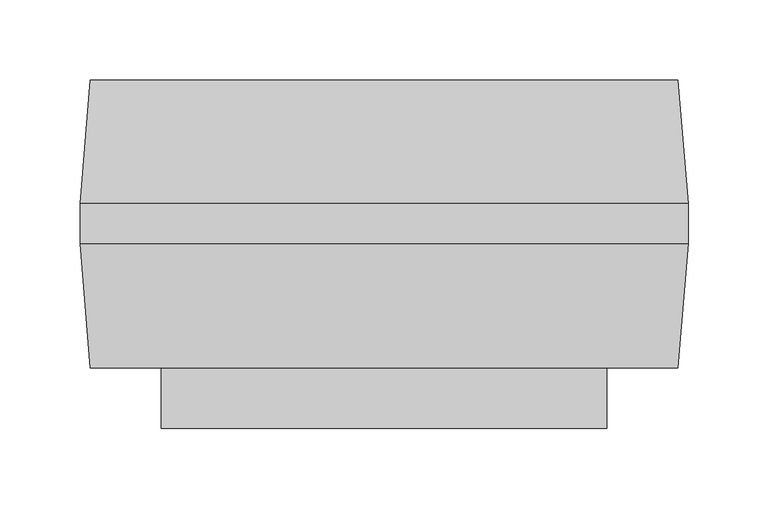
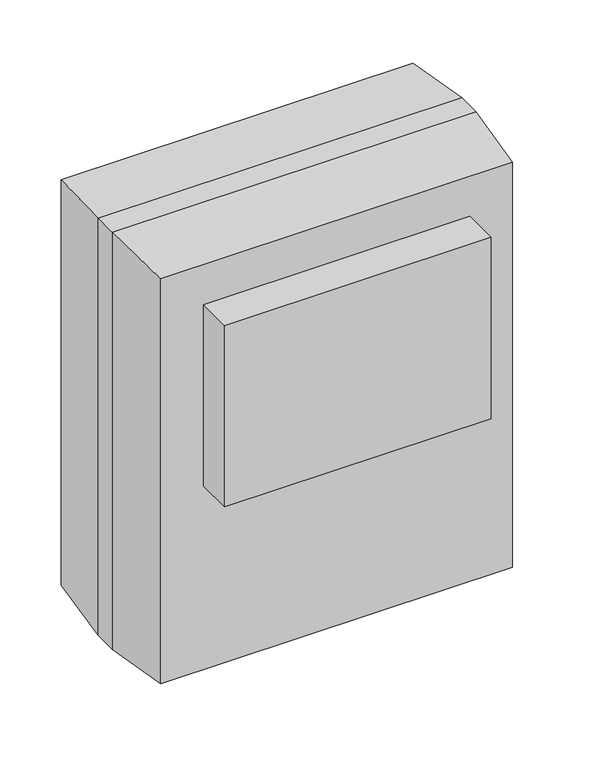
"""IFC4 building model written with IfcOpenShell, lengths in millimetres: proxy geometry, M_Отопительный агрегат : 3–5 кВт."""

import ifcopenshell
import ifcopenshell.guid

model = None  # the IFC model being written
_history = None  # IfcOwnerHistory: only IFC2X3 demands one
_inside = {}  # id of a spatial element -> (the spatial element, [elements in it])
_under = {}  # id of a project, library or spatial element -> (it, [spatial elements below it])
_declared = {}  # id of a project -> (the project, [libraries it declares])
_typed = {}  # id of a type object -> (the type object, [elements of that type])
_made_of = {}  # id of a material, layer set ... -> (it, [elements and type objects made of it])


def new_model(schema):
    """Start an empty IFC model of exactly this schema.

    Asked for "IFC4X3", IfcOpenShell would pick the latest addendum, in which some entities
    have other attributes; the version numbers below select the first issue.
    IFC2X3 requires an IfcOwnerHistory on every rooted entity: one is made here for all.
    """
    global model, _history
    if schema == "IFC4X3":
        model = ifcopenshell.file(schema_version=(4, 3, 0, 0))
    else:
        model = ifcopenshell.file(schema=schema)
    _inside.clear()
    _under.clear()
    _declared.clear()
    _typed.clear()
    _made_of.clear()
    _history = None
    if model.schema == "IFC2X3":
        org = make("IfcOrganization", Name="unknown")
        user = make(
            "IfcPersonAndOrganization",
            ThePerson=make("IfcPerson", FamilyName="unknown"),
            TheOrganization=org,
        )
        app = make(
            "IfcApplication",
            ApplicationDeveloper=org,
            Version="unknown",
            ApplicationFullName="unknown",
            ApplicationIdentifier="unknown",
        )
        _history = make(
            "IfcOwnerHistory",
            OwningUser=user,
            OwningApplication=app,
            ChangeAction="ADDED",
            CreationDate=0,
        )
    return model


def make(cls, **values):
    """One entity of the class cls with the attributes given. An attribute that is None is left unset."""
    return model.create_entity(
        cls, **{name: value for name, value in values.items() if value is not None}
    )


def rooted(cls, **values):
    """An entity with a GlobalId (a new one), such as an element, a storey or a relation."""
    return make(cls, GlobalId=ifcopenshell.guid.new(), OwnerHistory=_history, **values)


def si_unit(unit_type, name, prefix=None):
    """IfcSIUnit, for example si_unit("LENGTHUNIT", "METRE", prefix="MILLI")."""
    return make("IfcSIUnit", UnitType=unit_type, Prefix=prefix, Name=name)


def assignment(units):
    """IfcUnitAssignment: the units of a project."""
    return None if units is None else make("IfcUnitAssignment", Units=units)


def point(xyz):
    """IfcCartesianPoint."""
    return None if xyz is None else make("IfcCartesianPoint", Coordinates=xyz)


def direction(xyz):
    """IfcDirection."""
    return None if xyz is None else make("IfcDirection", DirectionRatios=xyz)


def frame(location, z_axis=None, x_axis=None):
    """IfcAxis2Placement3D, a coordinate frame: its origin and axes. An axis left out is left unset."""
    return make(
        "IfcAxis2Placement3D",
        Location=point(location),
        Axis=direction(z_axis),
        RefDirection=direction(x_axis),
    )


def origin():
    """The frame at (0, 0, 0) with its axes left unset."""
    return frame((0.0, 0.0, 0.0))


def place(relative_to, where):
    """IfcLocalPlacement: puts the frame where relative to a parent placement (None: the world)."""
    return make(
        "IfcLocalPlacement", PlacementRelTo=relative_to, RelativePlacement=where
    )


def context(
    kind, dimensions, precision=None, world=None, true_north=None, identifier=None
):
    """IfcGeometricRepresentationContext, for example the 3D "Model" context."""
    return make(
        "IfcGeometricRepresentationContext",
        ContextIdentifier=identifier,
        ContextType=kind,
        CoordinateSpaceDimension=dimensions,
        Precision=precision,
        WorldCoordinateSystem=world,
        TrueNorth=true_north,
    )


def project(units=None, contexts=None):
    """IfcProject with its units and contexts."""
    return rooted(
        "IfcProject",
        Name="project",
        RepresentationContexts=contexts,
        UnitsInContext=assignment(units),
    )


def spatial(cls, under=None, at=None, **own):
    """A site, building, storey or space (cls), placed at a placement, below another one or the project."""
    s = rooted(cls, ObjectPlacement=at, **own)
    if under is not None:
        _under.setdefault(under.id(), (under, []))[1].append(s)
    return s


def polyline(points):
    """IfcPolyline through the points."""
    return make("IfcPolyline", Points=[point(p) for p in points])


def outline(outer, holes=None, kind="AREA"):
    """IfcArbitraryClosedProfileDef: a profile drawn as a closed curve; with holes, ...WithVoids."""
    if holes is None:
        return make("IfcArbitraryClosedProfileDef", ProfileType=kind, OuterCurve=outer)
    return make(
        "IfcArbitraryProfileDefWithVoids",
        ProfileType=kind,
        OuterCurve=outer,
        InnerCurves=holes,
    )


def extrude(swept, where, along, depth):
    """IfcExtrudedAreaSolid: the profile swept, set in the frame where, extruded along a direction by depth."""
    return make(
        "IfcExtrudedAreaSolid",
        SweptArea=swept,
        Position=where,
        ExtrudedDirection=direction(along),
        Depth=depth,
    )


def faces_of(points, faces, orient=None, outer=None):
    """IfcFace entities. A face is a list of loops; a loop is a list of indices into points, from 0.

    orient and outer hold one flag for each loop. By default every Orientation is true, the
    first loop of a face is its IfcFaceOuterBound and the others are IfcFaceBound.
    """
    made = []
    for i, loops in enumerate(faces):
        bounds = []
        for j, loop in enumerate(loops):
            is_outer = j == 0 if outer is None else outer[i][j]
            bounds.append(
                make(
                    "IfcFaceOuterBound" if is_outer else "IfcFaceBound",
                    Bound=make("IfcPolyLoop", Polygon=[points[k] for k in loop]),
                    Orientation=True if orient is None else orient[i][j],
                )
            )
        made.append(make("IfcFace", Bounds=bounds))
    return made


def faceted_brep(points, faces, orient=None, outer=None, voids=None):
    """IfcFacetedBrep: a solid bounded by flat faces; with voids (closed shells), ...WithVoids."""
    shared = [point(p) for p in points]
    hull = make("IfcClosedShell", CfsFaces=faces_of(shared, faces, orient, outer))
    if voids is None:
        return make("IfcFacetedBrep", Outer=hull)
    return make(
        "IfcFacetedBrepWithVoids",
        Outer=hull,
        Voids=[
            make(cls, CfsFaces=faces_of(shared, fs, o, b)) for cls, fs, o, b in voids
        ],
    )


def shape(context_of_items, identifier, shape_type, items):
    """IfcShapeRepresentation: the items that make up one representation, for example the "Body"."""
    return make(
        "IfcShapeRepresentation",
        ContextOfItems=context_of_items,
        RepresentationIdentifier=identifier,
        RepresentationType=shape_type,
        Items=items,
    )


def source(mapping_origin, context_of_items, identifier, shape_type, items):
    """IfcRepresentationMap: a shape defined once, which mapped items show again and again."""
    return make(
        "IfcRepresentationMap",
        MappingOrigin=mapping_origin,
        MappedRepresentation=shape(context_of_items, identifier, shape_type, items),
    )


def transform(
    local_origin,
    x_axis=None,
    y_axis=None,
    z_axis=None,
    scale=None,
    scale2=None,
    scale3=None,
    uniform=True,
):
    """IfcCartesianTransformationOperator3D, or its non-uniform kind. x_axis, y_axis, z_axis: its Axis1, 2, 3."""
    if uniform:
        return make(
            "IfcCartesianTransformationOperator3D",
            Axis1=direction(x_axis),
            Axis2=direction(y_axis),
            LocalOrigin=point(local_origin),
            Scale=scale,
            Axis3=direction(z_axis),
        )
    return make(
        "IfcCartesianTransformationOperator3DnonUniform",
        Axis1=direction(x_axis),
        Axis2=direction(y_axis),
        LocalOrigin=point(local_origin),
        Scale=scale,
        Axis3=direction(z_axis),
        Scale2=scale2,
        Scale3=scale3,
    )


def mapped(mapping_source, mapping_target):
    """IfcMappedItem: shows the shape of a source again, moved by a transform."""
    return make(
        "IfcMappedItem", MappingSource=mapping_source, MappingTarget=mapping_target
    )


def made_of(thing, what):
    """Note that an element or type object is made of a material, layer set ...; save() writes the relation."""
    if what is not None:
        _made_of.setdefault(what.id(), (what, []))[1].append(thing)
    return thing


def element(
    cls,
    number,
    at=None,
    inside=None,
    cuts=None,
    type_object=None,
    material=None,
    context=None,
    identifier="Body",
    shape_type=None,
    held_by="IfcProductDefinitionShape",
    body=None,
    shapes=None,
    **own,
):
    """One element of the class cls, such as IfcWall. Its Tag is "e" and its number.

    at: its placement. inside: the storey or other place that contains it. cuts: it is an
    opening in that element (IfcRelVoidsElement). A single representation is given by context,
    identifier, shape_type and body (its items); several are given by shapes. held_by: the class
    of the entity that holds the representations. save() writes the other relations.
    """
    e = rooted(cls, Tag="e%d" % number, ObjectPlacement=at, **own)
    if body is not None:
        shapes = [shape(context, identifier, shape_type, body)]
    if shapes is not None:
        e.Representation = make(held_by, Representations=shapes)
    if inside is not None:
        _inside.setdefault(inside.id(), (inside, []))[1].append(e)
    if cuts is not None:
        rooted(
            "IfcRelVoidsElement", RelatingBuildingElement=cuts, RelatedOpeningElement=e
        )
    if type_object is not None:
        _typed.setdefault(type_object.id(), (type_object, []))[1].append(e)
    return made_of(e, material)


def aggregate(whole, parts):
    """IfcRelAggregates: a whole, such as a stair, and the parts it consists of."""
    return rooted("IfcRelAggregates", RelatingObject=whole, RelatedObjects=parts)


def save(model, path):
    """Write the relations noted so far, then the file.

    IfcRelAggregates (storeys below a building ...), IfcRelContainedInSpatialStructure (elements
    in a storey), IfcRelDefinesByType, IfcRelAssociatesMaterial and IfcRelDeclares: one each for
    every whole, place, type object, material and project.
    """
    for whole, parts in _under.values():
        aggregate(whole, parts)
    for where, things in _inside.values():
        rooted(
            "IfcRelContainedInSpatialStructure",
            RelatedElements=things,
            RelatingStructure=where,
        )
    for kind, things in _typed.values():
        rooted("IfcRelDefinesByType", RelatedObjects=things, RelatingType=kind)
    for what, things in _made_of.values():
        rooted("IfcRelAssociatesMaterial", RelatedObjects=things, RelatingMaterial=what)
    for by, libraries in _declared.values():
        rooted("IfcRelDeclares", RelatingContext=by, RelatedDefinitions=libraries)
    model.write(path)


def mechanical_equipment_a20b9884(model_context):
    return source(origin(), model_context, "Body", "SolidModel", [
        extrude(outline(polyline([(329.2, -38.1), (50.8, -38.1), (50.8, 0.0), (329.2, 0.0), (329.2, -38.1)])), frame((0.0, 0.0, 209.2), z_axis=(0.0, 0.0, 1.0), x_axis=(1.0, 0.0, 0.0)), (0.0, 0.0, 1.0), 200.0),
        faceted_brep([(0.0, 102.5, 460.0), (0.0, 77.5, 460.0), (380.0, 77.5, 460.0), (380.0, 102.5, 460.0), (380.0, 102.5, 0.0), (380.0, 77.5, 0.0), (0.0, 77.5, 0.0), (0.0, 102.5, 0.0), (373.65, 180.0, 453.65), (373.65, 180.0, 6.35), (6.35, 180.0, 6.35), (6.35, 180.0, 453.65), (6.35, 0.0, 453.65), (6.35, 0.0, 6.35), (373.65, 0.0, 6.35), (373.65, 0.0, 453.65)], [[[0, 1, 2, 3]], [[4, 5, 6, 7]], [[8, 9, 10, 11]], [[1, 0, 7, 6]], [[12, 13, 14, 15]], [[3, 2, 5, 4]], [[7, 0, 11, 10]], [[1, 6, 13, 12]], [[5, 2, 15, 14]], [[3, 4, 9, 8]], [[0, 3, 8, 11]], [[2, 1, 12, 15]], [[4, 7, 10, 9]], [[6, 5, 14, 13]]]),
    ])


if __name__ == "__main__":
    model = new_model("IFC4")
    model_context = context("Model", 3, world=origin())
    ifc_project = project(units=[si_unit("LENGTHUNIT", "METRE", prefix="MILLI")], contexts=[model_context])
    site = spatial("IfcSite", under=ifc_project)
    building = spatial("IfcBuilding", under=site)
    placement = place(None, origin())
    mechanical_equipment_shape = mechanical_equipment_a20b9884(model_context)
    element("IfcBuildingElementProxy", 1, Name="M_Отопительный агрегат : 3–5 кВт", ObjectType="M_Отопительный агрегат : 3–5 кВт", at=placement, inside=building, context=model_context, shape_type="MappedRepresentation", body=[
        mapped(mechanical_equipment_shape, transform((0.0, 0.0, 0.0), x_axis=(1.0, 0.0, 0.0), y_axis=(0.0, 1.0, 0.0), z_axis=(0.0, 0.0, 1.0))),
    ])
    save(model, "model.ifc")
